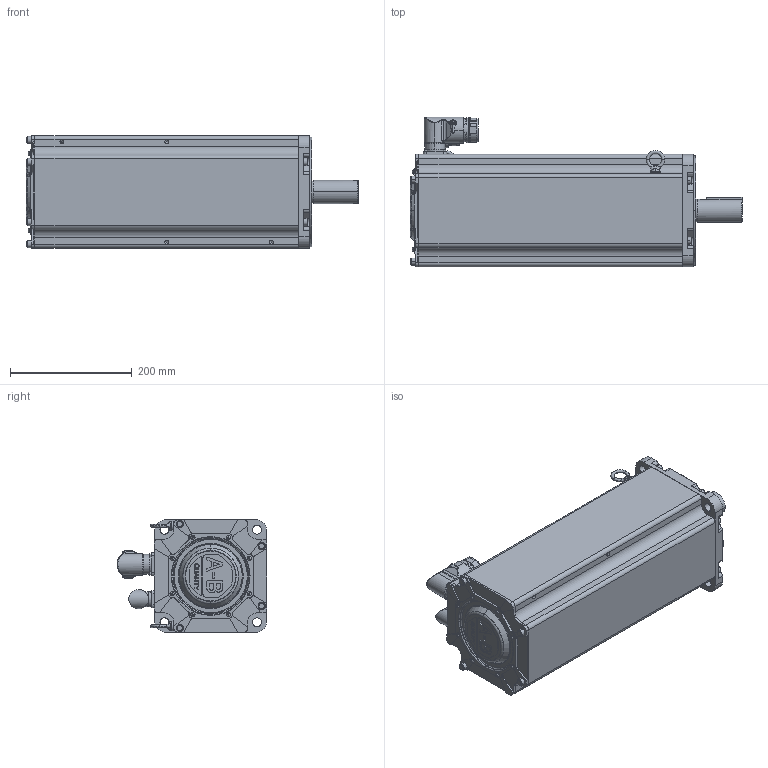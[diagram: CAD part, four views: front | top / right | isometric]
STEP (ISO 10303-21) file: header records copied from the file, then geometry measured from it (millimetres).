
FILE_DESCRIPTION (( 'STEP AP214' ), '1' );
FILE_NAME ('Rockwell Automation-MPM-B2154B-xx74xx.STEP', '2013-09-09T04:53:07', ( 'Windows User' ), ( '' ), 'SwSTEP 2.0', 'SolidWorks 2013', '' );
FILE_SCHEMA (( 'AUTOMOTIVE_DESIGN' ));
Length unit declared in the file: inch
Products named in the file (6): Rockwell Automation-MPM-B2154B-xx74xx_MPM-xxx-Eyebolt; Rockwell Automation-MPM-B2154B-xx74xx_MPM-xxxx-Power Connector-M40; Rockwell Automation-MPM-B2154B-xx74xx_MPM-xxxx-Encoder Connector; Rockwell Automation-MPM-B2154B-xx74xx_MPM-215x-Shaft_2154-shaft-key; Rockwell Automation-MPM-B2154B-xx74xx_MPM-215x-Body_2154-BRAKE; Rockwell Automation-MPM-B2154B-xx74xx
Assembly tree (6 placements, depth 2):
  Rockwell Automation-MPM-B2154B-xx74xx
    Rockwell Automation-MPM-B2154B-xx74xx_MPM-215x-Body_2154-BRAKE
    Rockwell Automation-MPM-B2154B-xx74xx_MPM-215x-Shaft_2154-shaft-key
    Rockwell Automation-MPM-B2154B-xx74xx_MPM-xxxx-Encoder Connector
    Rockwell Automation-MPM-B2154B-xx74xx_MPM-xxxx-Power Connector-M40
    Rockwell Automation-MPM-B2154B-xx74xx_MPM-xxx-Eyebolt  x2
Bounding box: 546.04 x 246.39 x 184.91 mm (x, y, z)
Volume: 8440925.2 mm3; surface area: 909557.1 mm2
Topology: 9 solids, 9 shells, 1058 faces, 2610 edges, 1661 vertices
Faces by surface type: plane 444, cylinder 371, torus 108, cone 84, bspline 51
Entity records: 36418 total; most frequent: CARTESIAN_POINT 9555, DIRECTION 5412, ORIENTED_EDGE 5098, EDGE_CURVE 2549, AXIS2_PLACEMENT_3D 2023, VERTEX_POINT 1635, VECTOR 1366, LINE 1366
